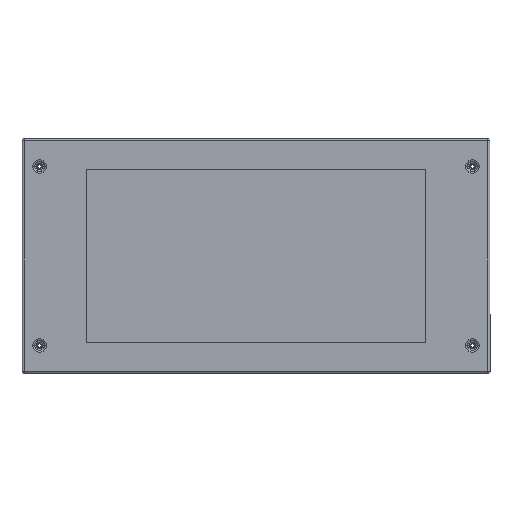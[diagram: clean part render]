
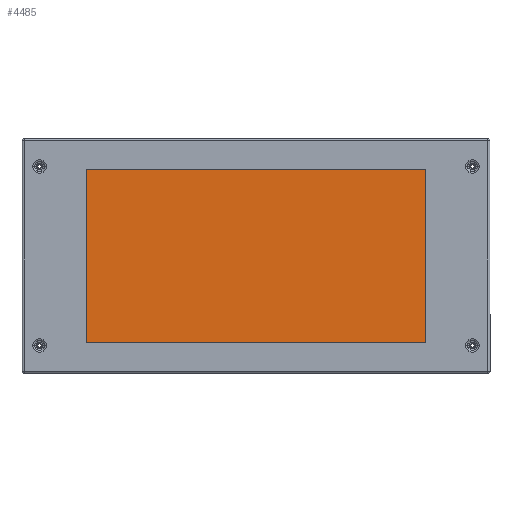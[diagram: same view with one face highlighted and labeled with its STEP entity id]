
A CAD part, top view. The second image highlights one B-rep face of the part: STEP entity #4485.
In plain terms, the highlighted planar face has unit normal (0, 0, 1).
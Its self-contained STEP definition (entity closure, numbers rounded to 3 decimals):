
#271 = CARTESIAN_POINT ( 'NONE',  ( 285., -144.5, -2. ) ) ;
#272 = CARTESIAN_POINT ( 'NONE',  ( 285., 144.5, -2. ) ) ;
#283 = CARTESIAN_POINT ( 'NONE',  ( -285., 144.5, -2. ) ) ;
#287 = CARTESIAN_POINT ( 'NONE',  ( -285., -144.5, -2. ) ) ;
#942 = EDGE_LOOP ( 'NONE', ( #1581, #1568, #1562, #1572 ) ) ;
#1302 = VERTEX_POINT ( 'NONE', #287 ) ;
#1306 = VERTEX_POINT ( 'NONE', #283 ) ;
#1317 = VERTEX_POINT ( 'NONE', #272 ) ;
#1318 = VERTEX_POINT ( 'NONE', #271 ) ;
#1562 = ORIENTED_EDGE ( 'NONE', *, *, #4419, .F. ) ;
#1568 = ORIENTED_EDGE ( 'NONE', *, *, #4413, .F. ) ;
#1572 = ORIENTED_EDGE ( 'NONE', *, *, #4417, .F. ) ;
#1581 = ORIENTED_EDGE ( 'NONE', *, *, #4409, .F. ) ;
#1747 = VECTOR ( 'NONE', #3085, 1000. ) ;
#1750 = VECTOR ( 'NONE', #3091, 1000. ) ;
#1755 = VECTOR ( 'NONE', #3103, 1000. ) ;
#1761 = VECTOR ( 'NONE', #3115, 1000. ) ;
#2357 = FACE_OUTER_BOUND ( 'NONE', #942, .T. ) ;
#2360 = AXIS2_PLACEMENT_3D ( 'NONE', #2883, #2882, #2881 ) ;
#2881 = DIRECTION ( 'NONE',  ( -1., 0., 0. ) ) ;
#2882 = DIRECTION ( 'NONE',  ( 0., 0., -1. ) ) ;
#2883 = CARTESIAN_POINT ( 'NONE',  ( 0., 0., -2. ) ) ;
#2884 = PLANE ( 'NONE',  #2360 ) ;
#3085 = DIRECTION ( 'NONE',  ( -1., 0., 0. ) ) ;
#3086 = CARTESIAN_POINT ( 'NONE',  ( 285., -144.5, -2. ) ) ;
#3087 = LINE ( 'NONE', #3086, #1747 ) ;
#3091 = DIRECTION ( 'NONE',  ( 0., -1., 0. ) ) ;
#3092 = CARTESIAN_POINT ( 'NONE',  ( 285., 144.5, -2. ) ) ;
#3093 = LINE ( 'NONE', #3092, #1750 ) ;
#3103 = DIRECTION ( 'NONE',  ( 0., 1., 0. ) ) ;
#3104 = CARTESIAN_POINT ( 'NONE',  ( -285., 144.5, -2. ) ) ;
#3105 = LINE ( 'NONE', #3104, #1755 ) ;
#3115 = DIRECTION ( 'NONE',  ( 1., 0., 0. ) ) ;
#3116 = CARTESIAN_POINT ( 'NONE',  ( 285., 144.5, -2. ) ) ;
#3117 = LINE ( 'NONE', #3116, #1761 ) ;
#4409 = EDGE_CURVE ( 'NONE', #1306, #1317, #3117, .T. ) ;
#4413 = EDGE_CURVE ( 'NONE', #1302, #1306, #3105, .T. ) ;
#4417 = EDGE_CURVE ( 'NONE', #1317, #1318, #3093, .T. ) ;
#4419 = EDGE_CURVE ( 'NONE', #1318, #1302, #3087, .T. ) ;
#4485 = ADVANCED_FACE ( 'NONE', ( #2357 ), #2884, .F. ) ;
